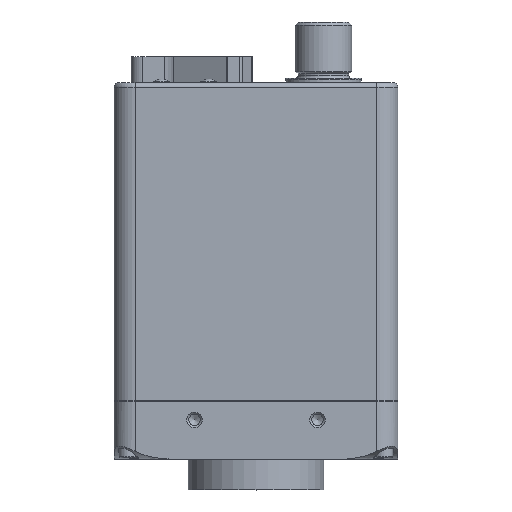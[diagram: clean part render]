
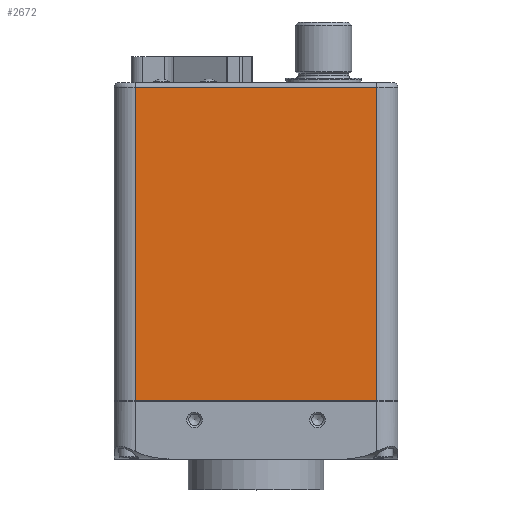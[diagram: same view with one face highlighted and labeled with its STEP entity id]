
A CAD part, top view. The second image highlights one B-rep face of the part: STEP entity #2672.
In plain terms, the highlighted planar face has unit normal (0, 0, 1).
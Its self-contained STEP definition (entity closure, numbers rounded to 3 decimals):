
#2672 = ADVANCED_FACE( '', ( #6873 ), #6874, .F. );
#6873 = FACE_OUTER_BOUND( '', #12523, .T. );
#6874 = PLANE( '', #12524 );
#12523 = EDGE_LOOP( '', ( #21136, #21137, #21138, #21139 ) );
#12524 = AXIS2_PLACEMENT_3D( '', #21140, #21141, #21142 );
#21136 = ORIENTED_EDGE( '', *, *, #33733, .F. );
#21137 = ORIENTED_EDGE( '', *, *, #33141, .T. );
#21138 = ORIENTED_EDGE( '', *, *, #33734, .T. );
#21139 = ORIENTED_EDGE( '', *, *, #33735, .T. );
#21140 = CARTESIAN_POINT( '', ( -25.487, 68.445, 29.988 ) );
#21141 = DIRECTION( '', ( 0., 0., -1. ) );
#21142 = DIRECTION( '', ( 0., 1., 0. ) );
#33141 = EDGE_CURVE( '', #40025, #38026, #40026, .F. );
#33733 = EDGE_CURVE( '', #40025, #40910, #40911, .T. );
#33734 = EDGE_CURVE( '', #38026, #40912, #40913, .T. );
#33735 = EDGE_CURVE( '', #40912, #40910, #40914, .T. );
#38026 = VERTEX_POINT( '', #46784 );
#40025 = VERTEX_POINT( '', #50053 );
#40026 = LINE( '', #50054, #50055 );
#40910 = VERTEX_POINT( '', #51279 );
#40911 = LINE( '', #51280, #51281 );
#40912 = VERTEX_POINT( '', #51282 );
#40913 = LINE( '', #51283, #51284 );
#40914 = LINE( '', #51285, #51286 );
#46784 = CARTESIAN_POINT( '', ( -25.487, 67.445, 29.988 ) );
#50053 = CARTESIAN_POINT( '', ( 25.488, 67.445, 29.987 ) );
#50054 = CARTESIAN_POINT( '', ( -25.487, 67.445, 29.988 ) );
#50055 = VECTOR( '', #59503, 1000. );
#51279 = CARTESIAN_POINT( '', ( 25.488, 1.245, 29.987 ) );
#51280 = CARTESIAN_POINT( '', ( 25.488, 68.445, 29.987 ) );
#51281 = VECTOR( '', #60237, 1000. );
#51282 = CARTESIAN_POINT( '', ( -25.487, 1.245, 29.987 ) );
#51283 = CARTESIAN_POINT( '', ( -25.487, 68.445, 29.988 ) );
#51284 = VECTOR( '', #60238, 1000. );
#51285 = CARTESIAN_POINT( '', ( -25.487, 1.245, 29.987 ) );
#51286 = VECTOR( '', #60239, 1000. );
#59503 = DIRECTION( '', ( 1., 0., 0. ) );
#60237 = DIRECTION( '', ( 0., -1., 0. ) );
#60238 = DIRECTION( '', ( 0., -1., 0. ) );
#60239 = DIRECTION( '', ( 1., 0., 0. ) );
